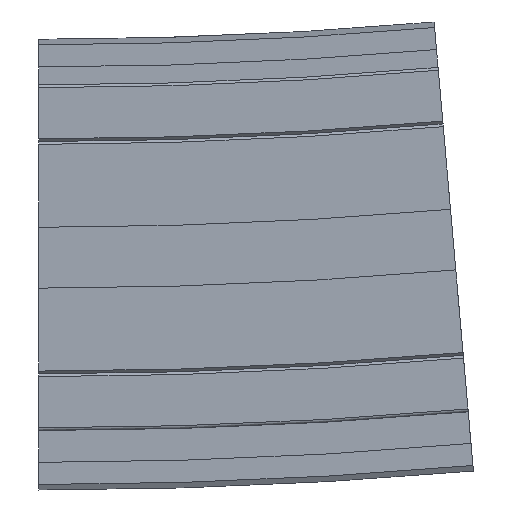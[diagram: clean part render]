
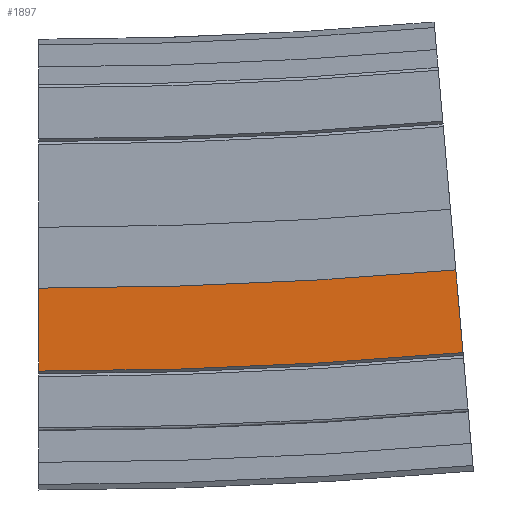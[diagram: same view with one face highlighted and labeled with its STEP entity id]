
A CAD part, front view. The second image highlights one B-rep face of the part: STEP entity #1897.
In plain terms, the highlighted planar face has unit normal (0, -1, 0).
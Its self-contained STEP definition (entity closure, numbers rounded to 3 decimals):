
#1839=CARTESIAN_POINT('',(76.741,-43.0,-56.649));
#1840=VERTEX_POINT('',#1839);
#1847=CARTESIAN_POINT('',(0.0,-43.0,-60.));
#1848=VERTEX_POINT('',#1847);
#1849=CARTESIAN_POINT('',(0.,-43.0,820.5));
#1850=DIRECTION('',(0.0,-1.0,0.0));
#1851=DIRECTION('',(-0.087,0.0,0.996));
#1852=AXIS2_PLACEMENT_3D('',#1849,#1850,#1851);
#1853=CIRCLE('',#1852,880.5);
#1854=EDGE_CURVE('',#1848,#1840,#1853,.T.);
#1866=CARTESIAN_POINT('',(0.0,-43.0,-52.5));
#1867=DIRECTION('',(0.0,-1.0,0.0));
#1868=DIRECTION('',(0.0,0.0,-1.0));
#1869=AXIS2_PLACEMENT_3D('',#1866,#1867,#1868);
#1870=PLANE('',#1869);
#1871=CARTESIAN_POINT('',(75.433,-43.0,-41.707));
#1872=VERTEX_POINT('',#1871);
#1873=CARTESIAN_POINT('',(76.741,-43.0,-56.649));
#1874=DIRECTION('',(-0.087,0.0,0.996));
#1875=VECTOR('',#1874,15.);
#1876=LINE('',#1873,#1875);
#1877=EDGE_CURVE('',#1840,#1872,#1876,.T.);
#1878=ORIENTED_EDGE('',*,*,#1877,.T.);
#1879=CARTESIAN_POINT('',(0.0,-43.0,-45.));
#1880=VERTEX_POINT('',#1879);
#1881=CARTESIAN_POINT('',(0.,-43.0,820.5));
#1882=DIRECTION('',(0.0,-1.0,0.0));
#1883=DIRECTION('',(-0.087,0.0,0.996));
#1884=AXIS2_PLACEMENT_3D('',#1881,#1882,#1883);
#1885=CIRCLE('',#1884,865.5);
#1886=EDGE_CURVE('',#1880,#1872,#1885,.T.);
#1887=ORIENTED_EDGE('',*,*,#1886,.F.);
#1888=CARTESIAN_POINT('',(0.0,-43.0,-45.));
#1889=DIRECTION('',(0.0,0.0,-1.0));
#1890=VECTOR('',#1889,15.0);
#1891=LINE('',#1888,#1890);
#1892=EDGE_CURVE('',#1880,#1848,#1891,.T.);
#1893=ORIENTED_EDGE('',*,*,#1892,.T.);
#1894=ORIENTED_EDGE('',*,*,#1854,.T.);
#1895=EDGE_LOOP('',(#1878,#1887,#1893,#1894));
#1896=FACE_OUTER_BOUND('',#1895,.T.);
#1897=ADVANCED_FACE('',(#1896),#1870,.T.);
